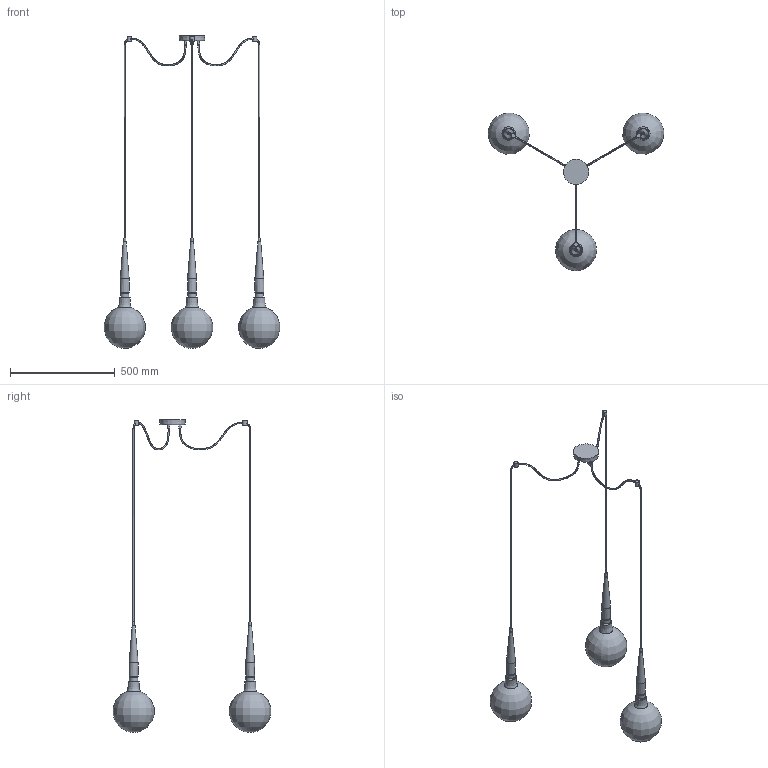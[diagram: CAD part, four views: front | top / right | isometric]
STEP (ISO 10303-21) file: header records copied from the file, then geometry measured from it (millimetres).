
FILE_DESCRIPTION(/* description */ (''),/* implementation_level */ '2;1');
FILE_NAME(/* name */ '1601_tripla',/* time_stamp */ '2021-03-15T11:41:49+01:00',/* author */ (''),/* organization */ (''),/* preprocessor_version */ 'ST-DEVELOPER v16.5',/* originating_system */ '',/* authorisation */ '');
FILE_SCHEMA (('CONFIG_CONTROL_DESIGN'));
Length unit declared in the file: millimetre
Products named in the file (1): Document
Bounding box: 837.41 x 752.43 x 1492.56 mm (x, y, z)
Volume: 13969350.7 mm3; surface area: 609780.9 mm2
Topology: 19 solids, 31 shells, 77 faces, 129 edges, 83 vertices
Faces by surface type: bspline 37, plane 31, cylinder 9
Full cylindrical faces by diameter (mm): 6 x6, 40 x3
Entity records: 5823 total; most frequent: CARTESIAN_POINT 4795, ORIENTED_EDGE 252, EDGE_CURVE 135, VERTEX_POINT 102, ADVANCED_FACE 77, FACE_OUTER_BOUND 77, EDGE_LOOP 77, DIRECTION 46
